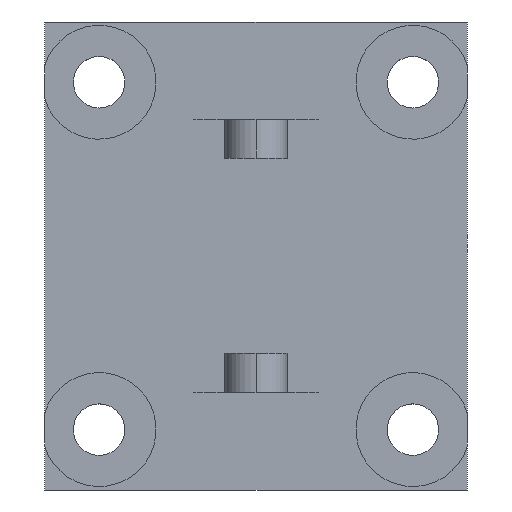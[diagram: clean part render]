
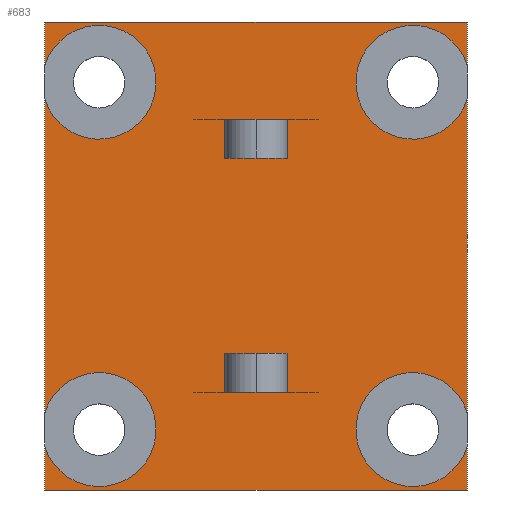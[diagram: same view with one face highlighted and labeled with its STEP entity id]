
A CAD part, top view. The second image highlights one B-rep face of the part: STEP entity #683.
In plain terms, the highlighted planar face has unit normal (0, 0, -1).
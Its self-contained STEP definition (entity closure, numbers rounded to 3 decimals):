
#5 = EDGE_CURVE ( 'NONE', #573, #634, #264, .T. ) ;
#9 = CIRCLE ( 'NONE', #365, 3.3 ) ;
#13 = DIRECTION ( 'NONE',  ( 0., 0., 1. ) ) ;
#15 = CARTESIAN_POINT ( 'NONE',  ( 0., 0., 0. ) ) ;
#26 = DIRECTION ( 'NONE',  ( 0., 0., 1. ) ) ;
#30 = DIRECTION ( 'NONE',  ( 0., 1., 0. ) ) ;
#36 = VERTEX_POINT ( 'NONE', #397 ) ;
#41 = CARTESIAN_POINT ( 'NONE',  ( 145.483, 0., 0. ) ) ;
#43 = EDGE_LOOP ( 'NONE', ( #199, #60 ) ) ;
#47 = DIRECTION ( 'NONE',  ( 1., 0., 0. ) ) ;
#50 = VERTEX_POINT ( 'NONE', #665 ) ;
#53 = DIRECTION ( 'NONE',  ( 0., 0., 1. ) ) ;
#60 = ORIENTED_EDGE ( 'NONE', *, *, #201, .T. ) ;
#66 = EDGE_CURVE ( 'NONE', #651, #489, #564, .T. ) ;
#67 = CARTESIAN_POINT ( 'NONE',  ( 138.496, 23.264, 0. ) ) ;
#76 = CARTESIAN_POINT ( 'NONE',  ( 0., 31., 0. ) ) ;
#88 = CARTESIAN_POINT ( 'NONE',  ( 138.496, 23.264, 0. ) ) ;
#93 = AXIS2_PLACEMENT_3D ( 'NONE', #699, #53, #218 ) ;
#101 = ORIENTED_EDGE ( 'NONE', *, *, #551, .F. ) ;
#123 = ORIENTED_EDGE ( 'NONE', *, *, #213, .T. ) ;
#128 = VECTOR ( 'NONE', #158, 1000. ) ;
#140 = AXIS2_PLACEMENT_3D ( 'NONE', #561, #26, #625 ) ;
#158 = DIRECTION ( 'NONE',  ( 0., -1., 0. ) ) ;
#166 = VECTOR ( 'NONE', #30, 1000. ) ;
#169 = DIRECTION ( 'NONE',  ( 0., 0., 1. ) ) ;
#174 = CIRCLE ( 'NONE', #140, 3.3 ) ;
#176 = VECTOR ( 'NONE', #47, 1000. ) ;
#179 = DIRECTION ( 'NONE',  ( 1., 0., 0. ) ) ;
#185 = CARTESIAN_POINT ( 'NONE',  ( 145.483, 31., 0. ) ) ;
#191 = CARTESIAN_POINT ( 'NONE',  ( 98.28, -21.264, 0. ) ) ;
#193 = VERTEX_POINT ( 'NONE', #185 ) ;
#199 = ORIENTED_EDGE ( 'NONE', *, *, #260, .T. ) ;
#201 = EDGE_CURVE ( 'NONE', #36, #692, #174, .T. ) ;
#202 = AXIS2_PLACEMENT_3D ( 'NONE', #191, #427, #368 ) ;
#212 = CARTESIAN_POINT ( 'NONE',  ( 145.483, -29., 0. ) ) ;
#213 = EDGE_CURVE ( 'NONE', #50, #534, #331, .T. ) ;
#214 = AXIS2_PLACEMENT_3D ( 'NONE', #658, #169, #339 ) ;
#218 = DIRECTION ( 'NONE',  ( 1., 0., 0. ) ) ;
#222 = FACE_BOUND ( 'NONE', #582, .T. ) ;
#226 = FACE_BOUND ( 'NONE', #43, .T. ) ;
#231 = DIRECTION ( 'NONE',  ( 0., 0., 1. ) ) ;
#252 = ORIENTED_EDGE ( 'NONE', *, *, #691, .F. ) ;
#258 = EDGE_LOOP ( 'NONE', ( #313, #412, #101, #252 ) ) ;
#259 = CARTESIAN_POINT ( 'NONE',  ( 141.796, 23.264, 0. ) ) ;
#260 = EDGE_CURVE ( 'NONE', #692, #36, #640, .T. ) ;
#263 = CARTESIAN_POINT ( 'NONE',  ( 94.98, -21.264, 0. ) ) ;
#264 = CIRCLE ( 'NONE', #649, 3.3 ) ;
#266 = AXIS2_PLACEMENT_3D ( 'NONE', #297, #452, #179 ) ;
#276 = LINE ( 'NONE', #644, #128 ) ;
#285 = EDGE_LOOP ( 'NONE', ( #627, #481 ) ) ;
#292 = FACE_BOUND ( 'NONE', #529, .T. ) ;
#296 = CARTESIAN_POINT ( 'NONE',  ( 101.58, -21.264, 0. ) ) ;
#297 = CARTESIAN_POINT ( 'NONE',  ( 98.28, -21.264, 0. ) ) ;
#313 = ORIENTED_EDGE ( 'NONE', *, *, #528, .F. ) ;
#319 = VERTEX_POINT ( 'NONE', #212 ) ;
#322 = CARTESIAN_POINT ( 'NONE',  ( 0., -29., 0. ) ) ;
#331 = CIRCLE ( 'NONE', #420, 3.3 ) ;
#335 = CARTESIAN_POINT ( 'NONE',  ( 135.196, -21.264, 0. ) ) ;
#339 = DIRECTION ( 'NONE',  ( 1., 0., 0. ) ) ;
#356 = EDGE_CURVE ( 'NONE', #634, #573, #422, .T. ) ;
#361 = VERTEX_POINT ( 'NONE', #637 ) ;
#365 = AXIS2_PLACEMENT_3D ( 'NONE', #88, #626, #410 ) ;
#368 = DIRECTION ( 'NONE',  ( 1., 0., 0. ) ) ;
#371 = EDGE_CURVE ( 'NONE', #576, #361, #276, .T. ) ;
#394 = DIRECTION ( 'NONE',  ( 1., 0., 0. ) ) ;
#397 = CARTESIAN_POINT ( 'NONE',  ( 101.58, 23.264, 0. ) ) ;
#406 = LINE ( 'NONE', #41, #166 ) ;
#410 = DIRECTION ( 'NONE',  ( 1., 0., 0. ) ) ;
#412 = ORIENTED_EDGE ( 'NONE', *, *, #371, .F. ) ;
#415 = EDGE_CURVE ( 'NONE', #534, #50, #9, .T. ) ;
#420 = AXIS2_PLACEMENT_3D ( 'NONE', #67, #549, #555 ) ;
#422 = CIRCLE ( 'NONE', #93, 3.3 ) ;
#427 = DIRECTION ( 'NONE',  ( 0., 0., 1. ) ) ;
#446 = DIRECTION ( 'NONE',  ( -1., 0., 0. ) ) ;
#449 = LINE ( 'NONE', #76, #663 ) ;
#452 = DIRECTION ( 'NONE',  ( 0., 0., 1. ) ) ;
#477 = ORIENTED_EDGE ( 'NONE', *, *, #5, .T. ) ;
#480 = ORIENTED_EDGE ( 'NONE', *, *, #356, .T. ) ;
#481 = ORIENTED_EDGE ( 'NONE', *, *, #66, .T. ) ;
#482 = EDGE_CURVE ( 'NONE', #489, #651, #507, .T. ) ;
#489 = VERTEX_POINT ( 'NONE', #263 ) ;
#496 = PLANE ( 'NONE',  #655 ) ;
#499 = DIRECTION ( 'NONE',  ( 1., 0., 0. ) ) ;
#500 = FACE_OUTER_BOUND ( 'NONE', #258, .T. ) ;
#507 = CIRCLE ( 'NONE', #202, 3.3 ) ;
#523 = CARTESIAN_POINT ( 'NONE',  ( 94.98, 23.264, 0. ) ) ;
#528 = EDGE_CURVE ( 'NONE', #361, #319, #531, .T. ) ;
#529 = EDGE_LOOP ( 'NONE', ( #123, #530 ) ) ;
#530 = ORIENTED_EDGE ( 'NONE', *, *, #415, .T. ) ;
#531 = LINE ( 'NONE', #322, #176 ) ;
#534 = VERTEX_POINT ( 'NONE', #259 ) ;
#549 = DIRECTION ( 'NONE',  ( 0., 0., 1. ) ) ;
#551 = EDGE_CURVE ( 'NONE', #193, #576, #449, .T. ) ;
#555 = DIRECTION ( 'NONE',  ( 1., 0., 0. ) ) ;
#557 = FACE_BOUND ( 'NONE', #285, .T. ) ;
#561 = CARTESIAN_POINT ( 'NONE',  ( 98.28, 23.264, 0. ) ) ;
#562 = CARTESIAN_POINT ( 'NONE',  ( 138.496, -21.264, 0. ) ) ;
#564 = CIRCLE ( 'NONE', #266, 3.3 ) ;
#573 = VERTEX_POINT ( 'NONE', #653 ) ;
#576 = VERTEX_POINT ( 'NONE', #662 ) ;
#582 = EDGE_LOOP ( 'NONE', ( #480, #477 ) ) ;
#625 = DIRECTION ( 'NONE',  ( 1., 0., 0. ) ) ;
#626 = DIRECTION ( 'NONE',  ( 0., 0., 1. ) ) ;
#627 = ORIENTED_EDGE ( 'NONE', *, *, #482, .T. ) ;
#634 = VERTEX_POINT ( 'NONE', #335 ) ;
#637 = CARTESIAN_POINT ( 'NONE',  ( 91.293, -29., 0. ) ) ;
#640 = CIRCLE ( 'NONE', #214, 3.3 ) ;
#644 = CARTESIAN_POINT ( 'NONE',  ( 91.293, 0., 0. ) ) ;
#649 = AXIS2_PLACEMENT_3D ( 'NONE', #562, #13, #499 ) ;
#651 = VERTEX_POINT ( 'NONE', #296 ) ;
#653 = CARTESIAN_POINT ( 'NONE',  ( 141.796, -21.264, 0. ) ) ;
#655 = AXIS2_PLACEMENT_3D ( 'NONE', #15, #231, #394 ) ;
#658 = CARTESIAN_POINT ( 'NONE',  ( 98.28, 23.264, 0. ) ) ;
#662 = CARTESIAN_POINT ( 'NONE',  ( 91.293, 31., 0. ) ) ;
#663 = VECTOR ( 'NONE', #446, 1000. ) ;
#665 = CARTESIAN_POINT ( 'NONE',  ( 135.196, 23.264, 0. ) ) ;
#683 = ADVANCED_FACE ( 'NONE', ( #222, #292, #226, #557, #500 ), #496, .F. ) ;
#691 = EDGE_CURVE ( 'NONE', #319, #193, #406, .T. ) ;
#692 = VERTEX_POINT ( 'NONE', #523 ) ;
#699 = CARTESIAN_POINT ( 'NONE',  ( 138.496, -21.264, 0. ) ) ;
